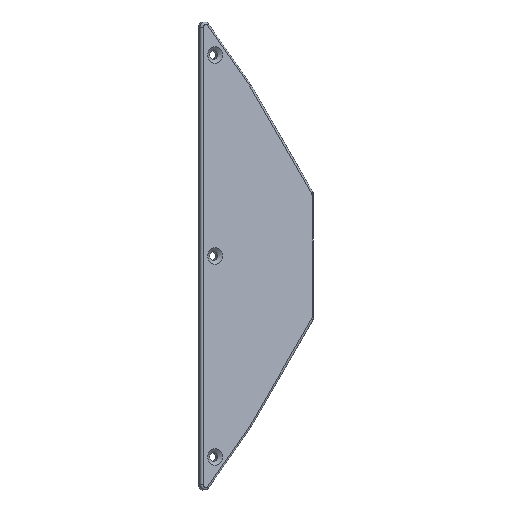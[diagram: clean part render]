
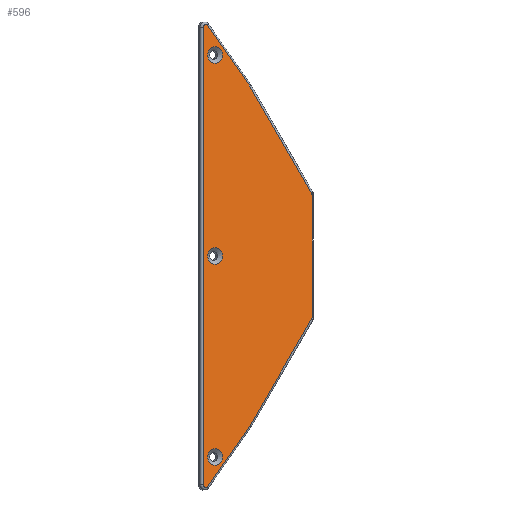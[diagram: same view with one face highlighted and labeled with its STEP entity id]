
A CAD part, top view. The second image highlights one B-rep face of the part: STEP entity #596.
In plain terms, the highlighted planar face has unit normal (0.439, 0, 0.898).
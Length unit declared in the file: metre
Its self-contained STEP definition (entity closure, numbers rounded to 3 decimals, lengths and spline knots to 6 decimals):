
#27=B_SPLINE_CURVE_WITH_KNOTS('',3,(#995,#996,#997,#998),.UNSPECIFIED.,
 .F.,.F.,(4,4),(0.,1.),.UNSPECIFIED.);
#28=B_SPLINE_CURVE_WITH_KNOTS('',3,(#1008,#1009,#1010,#1011),
 .UNSPECIFIED.,.F.,.F.,(4,4),(0.,1.),.UNSPECIFIED.);
#35=CIRCLE('',#648,0.001);
#43=CIRCLE('',#660,0.001);
#44=CIRCLE('',#661,0.001);
#45=CIRCLE('',#662,0.001);
#46=CIRCLE('',#663,0.00329);
#47=CIRCLE('',#664,0.00329);
#48=CIRCLE('',#665,0.00329);
#129=ORIENTED_EDGE('',*,*,#274,.F.);
#130=ORIENTED_EDGE('',*,*,#291,.F.);
#131=ORIENTED_EDGE('',*,*,#292,.F.);
#132=ORIENTED_EDGE('',*,*,#293,.F.);
#133=ORIENTED_EDGE('',*,*,#294,.F.);
#134=ORIENTED_EDGE('',*,*,#295,.F.);
#135=ORIENTED_EDGE('',*,*,#296,.F.);
#136=ORIENTED_EDGE('',*,*,#297,.F.);
#137=ORIENTED_EDGE('',*,*,#298,.F.);
#138=ORIENTED_EDGE('',*,*,#267,.F.);
#139=ORIENTED_EDGE('',*,*,#299,.T.);
#140=ORIENTED_EDGE('',*,*,#300,.T.);
#141=ORIENTED_EDGE('',*,*,#301,.T.);
#267=EDGE_CURVE('',#352,#353,#403,.T.);
#274=EDGE_CURVE('',#357,#352,#35,.F.);
#291=EDGE_CURVE('',#370,#357,#415,.T.);
#292=EDGE_CURVE('',#371,#370,#43,.F.);
#293=EDGE_CURVE('',#372,#371,#27,.T.);
#294=EDGE_CURVE('',#373,#372,#416,.T.);
#295=EDGE_CURVE('',#374,#373,#44,.F.);
#296=EDGE_CURVE('',#375,#374,#417,.T.);
#297=EDGE_CURVE('',#376,#375,#45,.F.);
#298=EDGE_CURVE('',#353,#376,#28,.T.);
#299=EDGE_CURVE('',#377,#377,#46,.F.);
#300=EDGE_CURVE('',#378,#378,#47,.F.);
#301=EDGE_CURVE('',#379,#379,#48,.F.);
#352=VERTEX_POINT('',#932);
#353=VERTEX_POINT('',#934);
#357=VERTEX_POINT('',#952);
#370=VERTEX_POINT('',#992);
#371=VERTEX_POINT('',#994);
#372=VERTEX_POINT('',#999);
#373=VERTEX_POINT('',#1001);
#374=VERTEX_POINT('',#1003);
#375=VERTEX_POINT('',#1005);
#376=VERTEX_POINT('',#1007);
#377=VERTEX_POINT('',#1013);
#378=VERTEX_POINT('',#1015);
#379=VERTEX_POINT('',#1017);
#403=LINE('',#933,#447);
#415=LINE('',#991,#459);
#416=LINE('',#1000,#460);
#417=LINE('',#1004,#461);
#447=VECTOR('',#734,1.);
#459=VECTOR('',#778,1.);
#460=VECTOR('',#781,1.);
#461=VECTOR('',#784,1.);
#497=EDGE_LOOP('',(#129,#130,#131,#132,#133,#134,#135,#136,#137,#138));
#498=EDGE_LOOP('',(#139));
#499=EDGE_LOOP('',(#140));
#500=EDGE_LOOP('',(#141));
#541=FACE_BOUND('',#497,.T.);
#542=FACE_BOUND('',#498,.T.);
#543=FACE_BOUND('',#499,.T.);
#544=FACE_BOUND('',#500,.T.);
#578=PLANE('',#659);
#596=ADVANCED_FACE('',(#541,#542,#543,#544),#578,.F.);
#648=AXIS2_PLACEMENT_3D('',#951,#747,#748);
#659=AXIS2_PLACEMENT_3D('',#990,#776,#777);
#660=AXIS2_PLACEMENT_3D('',#993,#779,#780);
#661=AXIS2_PLACEMENT_3D('',#1002,#782,#783);
#662=AXIS2_PLACEMENT_3D('',#1006,#785,#786);
#663=AXIS2_PLACEMENT_3D('',#1012,#787,#788);
#664=AXIS2_PLACEMENT_3D('',#1014,#789,#790);
#665=AXIS2_PLACEMENT_3D('',#1016,#791,#792);
#734=DIRECTION('',(0.551,-0.79,-0.269));
#747=DIRECTION('',(0.439,0.,0.898));
#748=DIRECTION('',(0.898,0.,-0.439));
#776=DIRECTION('',(-0.439,0.,-0.898));
#777=DIRECTION('',(-0.898,0.,0.439));
#778=DIRECTION('',(0.,1.,0.));
#779=DIRECTION('',(0.439,0.,0.898));
#780=DIRECTION('',(0.898,0.,-0.439));
#781=DIRECTION('',(-0.486,-0.841,0.237));
#782=DIRECTION('',(0.439,0.,0.898));
#783=DIRECTION('',(0.898,0.,-0.439));
#784=DIRECTION('',(0.,-1.,0.));
#785=DIRECTION('',(0.439,0.,0.898));
#786=DIRECTION('',(0.898,0.,-0.439));
#787=DIRECTION('',(0.439,0.,0.898));
#788=DIRECTION('',(0.898,0.,-0.439));
#789=DIRECTION('',(0.439,0.,0.898));
#790=DIRECTION('',(0.898,0.,-0.439));
#791=DIRECTION('',(0.439,0.,0.898));
#792=DIRECTION('',(0.898,0.,-0.439));
#932=CARTESIAN_POINT('',(0.258824,0.091771,0.10247));
#933=CARTESIAN_POINT('',(0.258824,0.091771,0.10247));
#934=CARTESIAN_POINT('',(0.275608,0.067687,0.094264));
#951=CARTESIAN_POINT('',(0.258114,0.091159,0.102817));
#952=CARTESIAN_POINT('',(0.257216,0.091159,0.103256));
#990=CARTESIAN_POINT('',(0.271385,0.,0.096329));
#991=CARTESIAN_POINT('',(0.257216,-0.091159,0.103256));
#992=CARTESIAN_POINT('',(0.257216,-0.091159,0.103256));
#993=CARTESIAN_POINT('',(0.258114,-0.091159,0.102817));
#994=CARTESIAN_POINT('',(0.258824,-0.091771,0.10247));
#995=CARTESIAN_POINT('',(0.275562,-0.067759,0.094287));
#996=CARTESIAN_POINT('',(0.269983,-0.075763,0.097014));
#997=CARTESIAN_POINT('',(0.264403,-0.083767,0.099742));
#998=CARTESIAN_POINT('',(0.258824,-0.091771,0.10247));
#999=CARTESIAN_POINT('',(0.275562,-0.067759,0.094287));
#1000=CARTESIAN_POINT('',(0.300277,-0.024953,0.082204));
#1001=CARTESIAN_POINT('',(0.300277,-0.024953,0.082204));
#1002=CARTESIAN_POINT('',(0.299521,-0.024413,0.082574));
#1003=CARTESIAN_POINT('',(0.300419,-0.024413,0.082134));
#1004=CARTESIAN_POINT('',(0.300419,0.024413,0.082134));
#1005=CARTESIAN_POINT('',(0.300419,0.024413,0.082134));
#1006=CARTESIAN_POINT('',(0.299521,0.024413,0.082574));
#1007=CARTESIAN_POINT('',(0.300277,0.024953,0.082204));
#1008=CARTESIAN_POINT('',(0.275608,0.067687,0.094264));
#1009=CARTESIAN_POINT('',(0.283831,0.053443,0.090244));
#1010=CARTESIAN_POINT('',(0.292054,0.039198,0.086224));
#1011=CARTESIAN_POINT('',(0.300277,0.024953,0.082204));
#1012=CARTESIAN_POINT('',(0.261818,-0.08,0.101006));
#1013=CARTESIAN_POINT('',(0.258862,-0.08,0.102451));
#1014=CARTESIAN_POINT('',(0.261818,0.,0.101006));
#1015=CARTESIAN_POINT('',(0.258862,0.,0.102451));
#1016=CARTESIAN_POINT('',(0.261818,0.08,0.101006));
#1017=CARTESIAN_POINT('',(0.258862,0.08,0.102451));
